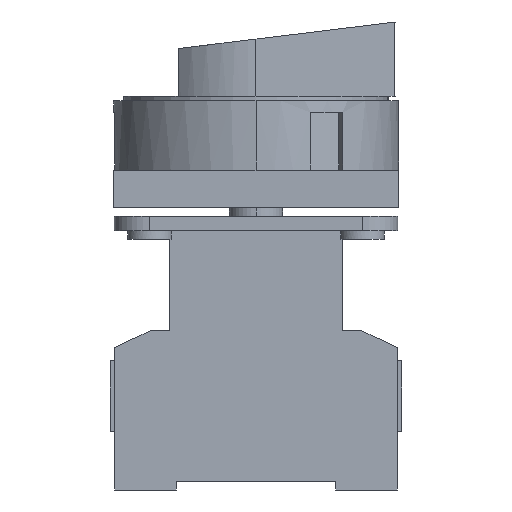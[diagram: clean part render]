
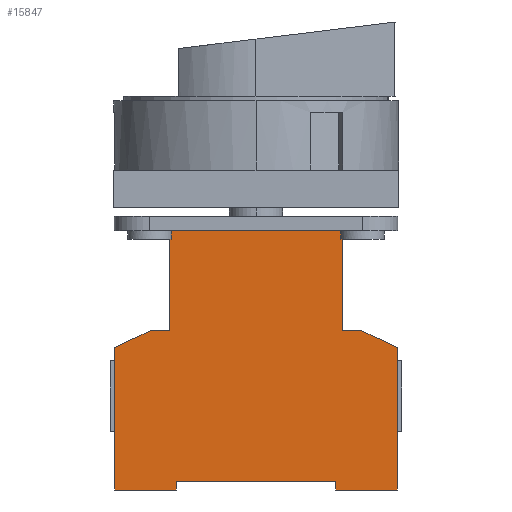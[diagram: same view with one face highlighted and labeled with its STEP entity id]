
A CAD part, left-side view. The second image highlights one B-rep face of the part: STEP entity #15847.
In plain terms, the highlighted planar face has unit normal (-1, 0, 0).
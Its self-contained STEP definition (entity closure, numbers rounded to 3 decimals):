
#2852=DIRECTION('',(0.,-1.,0.));
#2853=VECTOR('',#2852,38.461);
#2854=CARTESIAN_POINT('',(-33.25,19.23,58.7));
#2855=LINE('',#2854,#2853);
#2949=DIRECTION('',(0.,0.,1.));
#2950=VECTOR('',#2949,20.7);
#2951=CARTESIAN_POINT('',(-33.25,-19.5,36.));
#2952=LINE('',#2951,#2950);
#2953=DIRECTION('',(0.,1.,0.));
#2954=VECTOR('',#2953,4.458);
#2955=CARTESIAN_POINT('',(-33.25,-23.958,36.));
#2956=LINE('',#2955,#2954);
#2957=DIRECTION('',(0.,0.906,0.423));
#2958=VECTOR('',#2957,8.873);
#2959=CARTESIAN_POINT('',(-33.25,-32.,32.25));
#2960=LINE('',#2959,#2958);
#2961=DIRECTION('',(0.,0.,1.));
#2962=VECTOR('',#2961,32.25);
#2963=CARTESIAN_POINT('',(-33.25,-32.,0.));
#2964=LINE('',#2963,#2962);
#2965=DIRECTION('',(0.,-1.,0.));
#2966=VECTOR('',#2965,14.);
#2967=CARTESIAN_POINT('',(-33.25,-18.,0.));
#2968=LINE('',#2967,#2966);
#2969=DIRECTION('',(0.,0.,-1.));
#2970=VECTOR('',#2969,2.);
#2971=CARTESIAN_POINT('',(-33.25,-18.,2.));
#2972=LINE('',#2971,#2970);
#2973=DIRECTION('',(0.,-1.,0.));
#2974=VECTOR('',#2973,36.);
#2975=CARTESIAN_POINT('',(-33.25,18.,2.));
#2976=LINE('',#2975,#2974);
#2977=DIRECTION('',(0.,0.,1.));
#2978=VECTOR('',#2977,2.);
#2979=CARTESIAN_POINT('',(-33.25,18.,0.));
#2980=LINE('',#2979,#2978);
#2981=DIRECTION('',(0.,-1.,0.));
#2982=VECTOR('',#2981,14.);
#2983=CARTESIAN_POINT('',(-33.25,32.,0.));
#2984=LINE('',#2983,#2982);
#2985=DIRECTION('',(0.,0.,-1.));
#2986=VECTOR('',#2985,32.25);
#2987=CARTESIAN_POINT('',(-33.25,32.,32.25));
#2988=LINE('',#2987,#2986);
#2989=DIRECTION('',(0.,0.906,-0.423));
#2990=VECTOR('',#2989,8.873);
#2991=CARTESIAN_POINT('',(-33.25,23.958,36.));
#2992=LINE('',#2991,#2990);
#2993=DIRECTION('',(0.,1.,0.));
#2994=VECTOR('',#2993,4.458);
#2995=CARTESIAN_POINT('',(-33.25,19.5,36.));
#2996=LINE('',#2995,#2994);
#2997=DIRECTION('',(0.,0.,-1.));
#2998=VECTOR('',#2997,20.7);
#2999=CARTESIAN_POINT('',(-33.25,19.5,56.7));
#3000=LINE('',#2999,#2998);
#3021=DIRECTION('',(0.,-1.,0.));
#3022=VECTOR('',#3021,0.27);
#3023=CARTESIAN_POINT('',(-33.25,19.5,56.7));
#3024=LINE('',#3023,#3022);
#4602=DIRECTION('',(0.,0.,-1.));
#4603=VECTOR('',#4602,2.);
#4604=CARTESIAN_POINT('',(-33.25,19.23,58.7));
#4605=LINE('',#4604,#4603);
#4610=DIRECTION('',(0.,0.,-1.));
#4611=VECTOR('',#4610,2.);
#4612=CARTESIAN_POINT('',(-33.25,-19.23,58.7));
#4613=LINE('',#4612,#4611);
#6293=DIRECTION('',(0.,-1.,0.));
#6294=VECTOR('',#6293,0.27);
#6295=CARTESIAN_POINT('',(-33.25,-19.23,56.7));
#6296=LINE('',#6295,#6294);
#11955=CARTESIAN_POINT('',(-33.25,18.,0.));
#11956=CARTESIAN_POINT('',(-33.25,18.,2.));
#11957=VERTEX_POINT('',#11955);
#11958=VERTEX_POINT('',#11956);
#11959=CARTESIAN_POINT('',(-33.25,-18.,2.));
#11960=VERTEX_POINT('',#11959);
#11961=CARTESIAN_POINT('',(-33.25,-18.,0.));
#11962=VERTEX_POINT('',#11961);
#11963=CARTESIAN_POINT('',(-33.25,-32.,0.));
#11964=VERTEX_POINT('',#11963);
#11965=CARTESIAN_POINT('',(-33.25,-32.,32.25));
#11966=VERTEX_POINT('',#11965);
#11967=CARTESIAN_POINT('',(-33.25,-23.958,36.));
#11968=VERTEX_POINT('',#11967);
#11969=CARTESIAN_POINT('',(-33.25,-19.5,36.));
#11970=VERTEX_POINT('',#11969);
#11971=CARTESIAN_POINT('',(-33.25,19.5,36.));
#11972=CARTESIAN_POINT('',(-33.25,23.958,36.));
#11973=VERTEX_POINT('',#11971);
#11974=VERTEX_POINT('',#11972);
#11975=CARTESIAN_POINT('',(-33.25,32.,32.25));
#11976=VERTEX_POINT('',#11975);
#11977=CARTESIAN_POINT('',(-33.25,32.,0.));
#11978=VERTEX_POINT('',#11977);
#11979=CARTESIAN_POINT('',(-33.25,19.5,56.7));
#11980=CARTESIAN_POINT('',(-33.25,19.23,56.7));
#11981=VERTEX_POINT('',#11979);
#11982=VERTEX_POINT('',#11980);
#11983=CARTESIAN_POINT('',(-33.25,-19.23,56.7));
#11984=CARTESIAN_POINT('',(-33.25,-19.5,56.7));
#11985=VERTEX_POINT('',#11983);
#11986=VERTEX_POINT('',#11984);
#11987=CARTESIAN_POINT('',(-33.25,-19.23,58.7));
#11988=VERTEX_POINT('',#11987);
#11989=CARTESIAN_POINT('',(-33.25,19.23,58.7));
#11990=VERTEX_POINT('',#11989);
#15814=CARTESIAN_POINT('',(-33.25,0.,0.));
#15815=DIRECTION('',(-1.,0.,0.));
#15816=DIRECTION('',(0.,-1.,0.));
#15817=AXIS2_PLACEMENT_3D('',#15814,#15815,#15816);
#15818=PLANE('',#15817);
#15820=ORIENTED_EDGE('',*,*,#15819,.T.);
#15822=ORIENTED_EDGE('',*,*,#15821,.F.);
#15823=ORIENTED_EDGE('',*,*,#15601,.T.);
#15825=ORIENTED_EDGE('',*,*,#15824,.T.);
#15827=ORIENTED_EDGE('',*,*,#15826,.T.);
#15829=ORIENTED_EDGE('',*,*,#15828,.F.);
#15831=ORIENTED_EDGE('',*,*,#15830,.F.);
#15833=ORIENTED_EDGE('',*,*,#15832,.F.);
#15834=ORIENTED_EDGE('',*,*,#12674,.F.);
#15835=ORIENTED_EDGE('',*,*,#13024,.F.);
#15837=ORIENTED_EDGE('',*,*,#15836,.F.);
#15838=ORIENTED_EDGE('',*,*,#15806,.F.);
#15839=ORIENTED_EDGE('',*,*,#15795,.F.);
#15840=ORIENTED_EDGE('',*,*,#12118,.F.);
#15841=ORIENTED_EDGE('',*,*,#13392,.F.);
#15842=ORIENTED_EDGE('',*,*,#14020,.F.);
#15843=ORIENTED_EDGE('',*,*,#14035,.F.);
#15844=ORIENTED_EDGE('',*,*,#14058,.F.);
#15845=EDGE_LOOP('',(#15820,#15822,#15823,#15825,#15827,#15829,#15831,#15833,
#15834,#15835,#15837,#15838,#15839,#15840,#15841,#15842,#15843,#15844));
#15846=FACE_OUTER_BOUND('',#15845,.F.);
#15847=ADVANCED_FACE('',(#15846),#15818,.T.);
#12118=EDGE_CURVE('',#11978,#11957,#2984,.T.);
#12674=EDGE_CURVE('',#11964,#11966,#2964,.T.);
#13024=EDGE_CURVE('',#11962,#11964,#2968,.T.);
#13392=EDGE_CURVE('',#11976,#11978,#2988,.T.);
#14020=EDGE_CURVE('',#11974,#11976,#2992,.T.);
#14035=EDGE_CURVE('',#11973,#11974,#2996,.T.);
#14058=EDGE_CURVE('',#11981,#11973,#3000,.T.);
#15601=EDGE_CURVE('',#11990,#11988,#2855,.T.);
#15795=EDGE_CURVE('',#11957,#11958,#2980,.T.);
#15806=EDGE_CURVE('',#11958,#11960,#2976,.T.);
#15819=EDGE_CURVE('',#11981,#11982,#3024,.T.);
#15821=EDGE_CURVE('',#11990,#11982,#4605,.T.);
#15824=EDGE_CURVE('',#11988,#11985,#4613,.T.);
#15826=EDGE_CURVE('',#11985,#11986,#6296,.T.);
#15828=EDGE_CURVE('',#11970,#11986,#2952,.T.);
#15830=EDGE_CURVE('',#11968,#11970,#2956,.T.);
#15832=EDGE_CURVE('',#11966,#11968,#2960,.T.);
#15836=EDGE_CURVE('',#11960,#11962,#2972,.T.);
